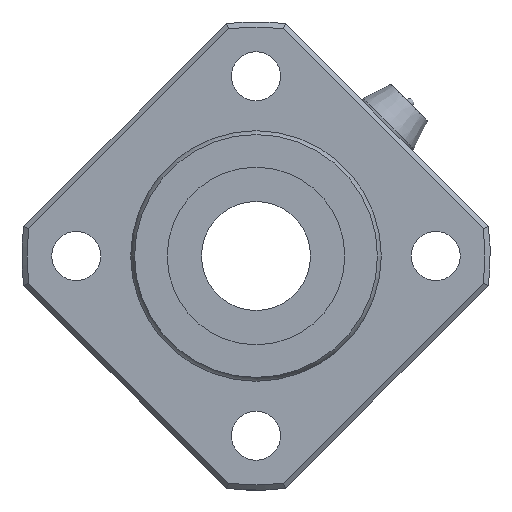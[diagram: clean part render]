
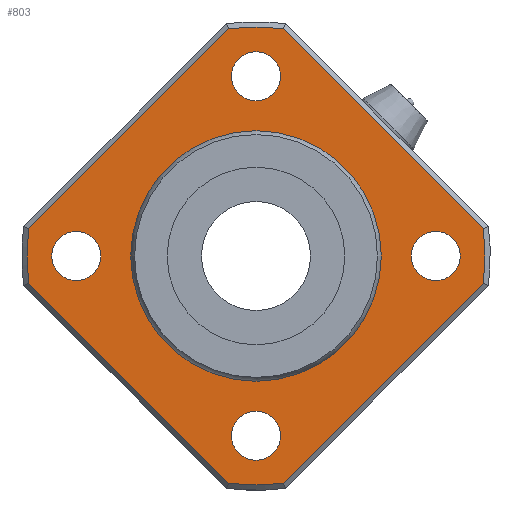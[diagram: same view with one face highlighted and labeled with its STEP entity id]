
A CAD part, left-side view. The second image highlights one B-rep face of the part: STEP entity #803.
In plain terms, the highlighted planar face has unit normal (-1, 0, 0).
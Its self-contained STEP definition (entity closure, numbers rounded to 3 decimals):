
#490=CARTESIAN_POINT('',(6.,-2.482,-20.853));
#491=VERTEX_POINT('',#490);
#499=CARTESIAN_POINT('',(6.,2.482,-20.853));
#500=VERTEX_POINT('',#499);
#501=CARTESIAN_POINT('',(6.,0.0,0.0));
#502=DIRECTION('',(1.0,0.0,0.0));
#503=DIRECTION('',(0.0,0.0,-1.0));
#504=AXIS2_PLACEMENT_3D('',#501,#502,#503);
#505=CIRCLE('',#504,21.0);
#506=EDGE_CURVE('',#491,#500,#505,.T.);
#525=CARTESIAN_POINT('',(6.,20.853,-2.482));
#526=VERTEX_POINT('',#525);
#527=CARTESIAN_POINT('',(6.,2.482,-20.853));
#528=DIRECTION('',(0.0,0.707,0.707));
#529=VECTOR('',#528,25.981);
#530=LINE('',#527,#529);
#531=EDGE_CURVE('',#500,#526,#530,.T.);
#558=CARTESIAN_POINT('',(6.,20.853,2.482));
#559=VERTEX_POINT('',#558);
#560=CARTESIAN_POINT('',(6.,0.0,0.0));
#561=DIRECTION('',(1.0,0.0,0.0));
#562=DIRECTION('',(0.0,0.0,1.0));
#563=AXIS2_PLACEMENT_3D('',#560,#561,#562);
#564=CIRCLE('',#563,21.0);
#565=EDGE_CURVE('',#526,#559,#564,.T.);
#591=CARTESIAN_POINT('',(6.,2.482,20.853));
#592=VERTEX_POINT('',#591);
#593=CARTESIAN_POINT('',(6.,20.853,2.482));
#594=DIRECTION('',(0.0,-0.707,0.707));
#595=VECTOR('',#594,25.981);
#596=LINE('',#593,#595);
#597=EDGE_CURVE('',#559,#592,#596,.T.);
#624=CARTESIAN_POINT('',(6.,-2.482,20.853));
#625=VERTEX_POINT('',#624);
#626=CARTESIAN_POINT('',(6.,0.0,0.0));
#627=DIRECTION('',(1.0,0.0,0.0));
#628=DIRECTION('',(0.0,0.0,1.0));
#629=AXIS2_PLACEMENT_3D('',#626,#627,#628);
#630=CIRCLE('',#629,21.0);
#631=EDGE_CURVE('',#592,#625,#630,.T.);
#655=CARTESIAN_POINT('',(6.,-20.853,2.482));
#656=VERTEX_POINT('',#655);
#657=CARTESIAN_POINT('',(6.,-2.482,20.853));
#658=DIRECTION('',(0.0,-0.707,-0.707));
#659=VECTOR('',#658,25.981);
#660=LINE('',#657,#659);
#661=EDGE_CURVE('',#625,#656,#660,.T.);
#680=CARTESIAN_POINT('',(6.,-20.853,-2.482));
#681=VERTEX_POINT('',#680);
#682=CARTESIAN_POINT('',(6.,0.0,0.0));
#683=DIRECTION('',(1.0,0.0,0.0));
#684=DIRECTION('',(0.0,0.0,1.0));
#685=AXIS2_PLACEMENT_3D('',#682,#683,#684);
#686=CIRCLE('',#685,21.0);
#687=EDGE_CURVE('',#656,#681,#686,.T.);
#706=CARTESIAN_POINT('',(6.,-20.853,-2.482));
#707=DIRECTION('',(0.0,0.707,-0.707));
#708=VECTOR('',#707,25.981);
#709=LINE('',#706,#708);
#710=EDGE_CURVE('',#681,#491,#709,.T.);
#733=CARTESIAN_POINT('',(6.,0.0,16.393));
#734=DIRECTION('',(-1.0,0.0,0.0));
#735=DIRECTION('',(0.0,0.0,1.0));
#736=AXIS2_PLACEMENT_3D('',#733,#734,#735);
#737=PLANE('',#736);
#738=ORIENTED_EDGE('',*,*,#506,.F.);
#739=ORIENTED_EDGE('',*,*,#710,.F.);
#740=ORIENTED_EDGE('',*,*,#687,.F.);
#741=ORIENTED_EDGE('',*,*,#661,.F.);
#742=ORIENTED_EDGE('',*,*,#631,.F.);
#743=ORIENTED_EDGE('',*,*,#597,.F.);
#744=ORIENTED_EDGE('',*,*,#565,.F.);
#745=ORIENTED_EDGE('',*,*,#531,.F.);
#746=EDGE_LOOP('',(#738,#739,#740,#741,#742,#743,#744,#745));
#747=FACE_OUTER_BOUND('',#746,.T.);
#748=CARTESIAN_POINT('',(6.,0.0,11.286));
#749=VERTEX_POINT('',#748);
#750=CARTESIAN_POINT('',(6.,0.0,0.0));
#751=DIRECTION('',(-1.0,0.0,0.0));
#752=DIRECTION('',(0.0,0.0,1.0));
#753=AXIS2_PLACEMENT_3D('',#750,#751,#752);
#754=CIRCLE('',#753,11.286);
#755=EDGE_CURVE('',#749,#749,#754,.T.);
#756=ORIENTED_EDGE('',*,*,#755,.F.);
#757=EDGE_LOOP('',(#756));
#758=FACE_BOUND('',#757,.T.);
#759=CARTESIAN_POINT('',(6.,14.25,0.));
#760=VERTEX_POINT('',#759);
#761=CARTESIAN_POINT('',(6.,16.5,0.));
#762=DIRECTION('',(1.0,0.0,0.0));
#763=DIRECTION('',(0.0,1.0,0.0));
#764=AXIS2_PLACEMENT_3D('',#761,#762,#763);
#765=CIRCLE('',#764,2.25);
#766=EDGE_CURVE('',#760,#760,#765,.T.);
#767=ORIENTED_EDGE('',*,*,#766,.T.);
#768=EDGE_LOOP('',(#767));
#769=FACE_BOUND('',#768,.T.);
#770=CARTESIAN_POINT('',(6.,-18.75,0.));
#771=VERTEX_POINT('',#770);
#772=CARTESIAN_POINT('',(6.,-16.5,0.));
#773=DIRECTION('',(1.0,0.0,0.0));
#774=DIRECTION('',(0.0,1.0,0.0));
#775=AXIS2_PLACEMENT_3D('',#772,#773,#774);
#776=CIRCLE('',#775,2.25);
#777=EDGE_CURVE('',#771,#771,#776,.T.);
#778=ORIENTED_EDGE('',*,*,#777,.T.);
#779=EDGE_LOOP('',(#778));
#780=FACE_BOUND('',#779,.T.);
#781=CARTESIAN_POINT('',(6.,-2.25,16.5));
#782=VERTEX_POINT('',#781);
#783=CARTESIAN_POINT('',(6.,0.,16.5));
#784=DIRECTION('',(1.0,0.0,0.0));
#785=DIRECTION('',(0.0,1.0,0.0));
#786=AXIS2_PLACEMENT_3D('',#783,#784,#785);
#787=CIRCLE('',#786,2.25);
#788=EDGE_CURVE('',#782,#782,#787,.T.);
#789=ORIENTED_EDGE('',*,*,#788,.T.);
#790=EDGE_LOOP('',(#789));
#791=FACE_BOUND('',#790,.T.);
#792=CARTESIAN_POINT('',(6.,-2.25,-16.5));
#793=VERTEX_POINT('',#792);
#794=CARTESIAN_POINT('',(6.,0.,-16.5));
#795=DIRECTION('',(1.0,0.0,0.0));
#796=DIRECTION('',(0.0,1.0,0.0));
#797=AXIS2_PLACEMENT_3D('',#794,#795,#796);
#798=CIRCLE('',#797,2.25);
#799=EDGE_CURVE('',#793,#793,#798,.T.);
#800=ORIENTED_EDGE('',*,*,#799,.T.);
#801=EDGE_LOOP('',(#800));
#802=FACE_BOUND('',#801,.T.);
#803=ADVANCED_FACE('',(#747,#758,#769,#780,#791,#802),#737,.T.);
